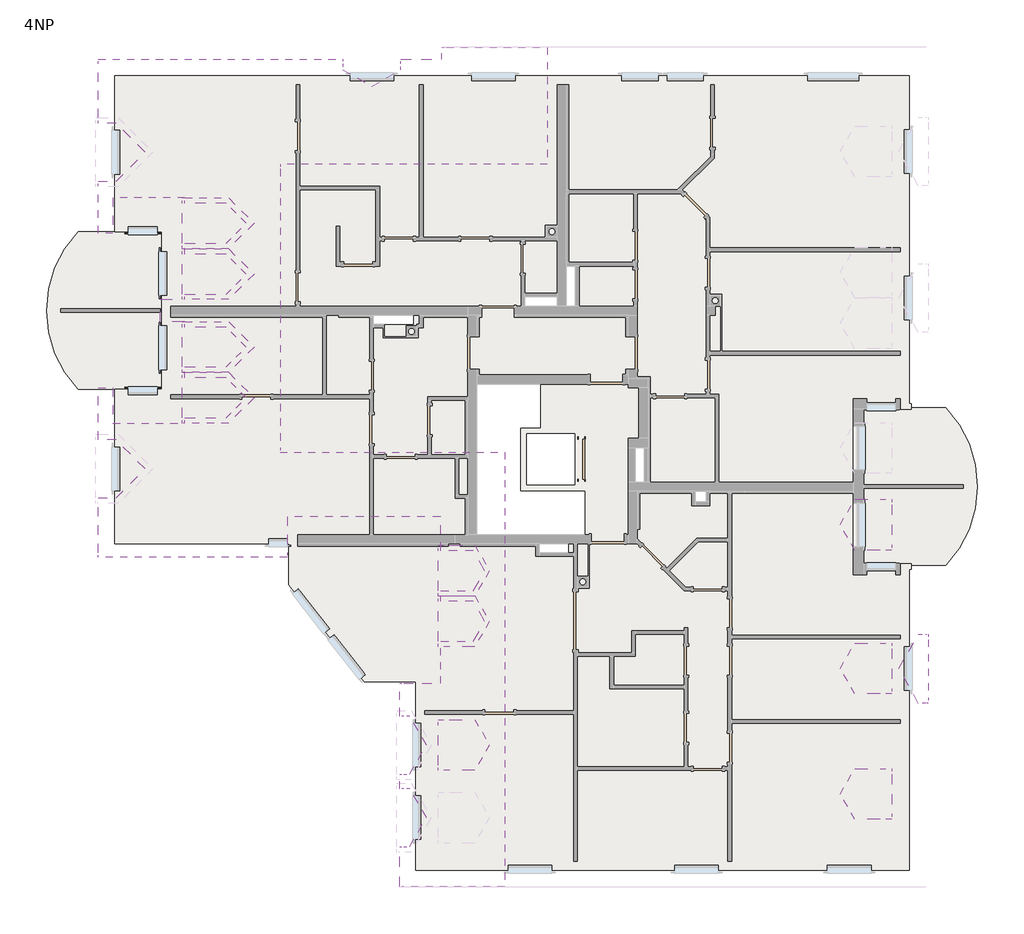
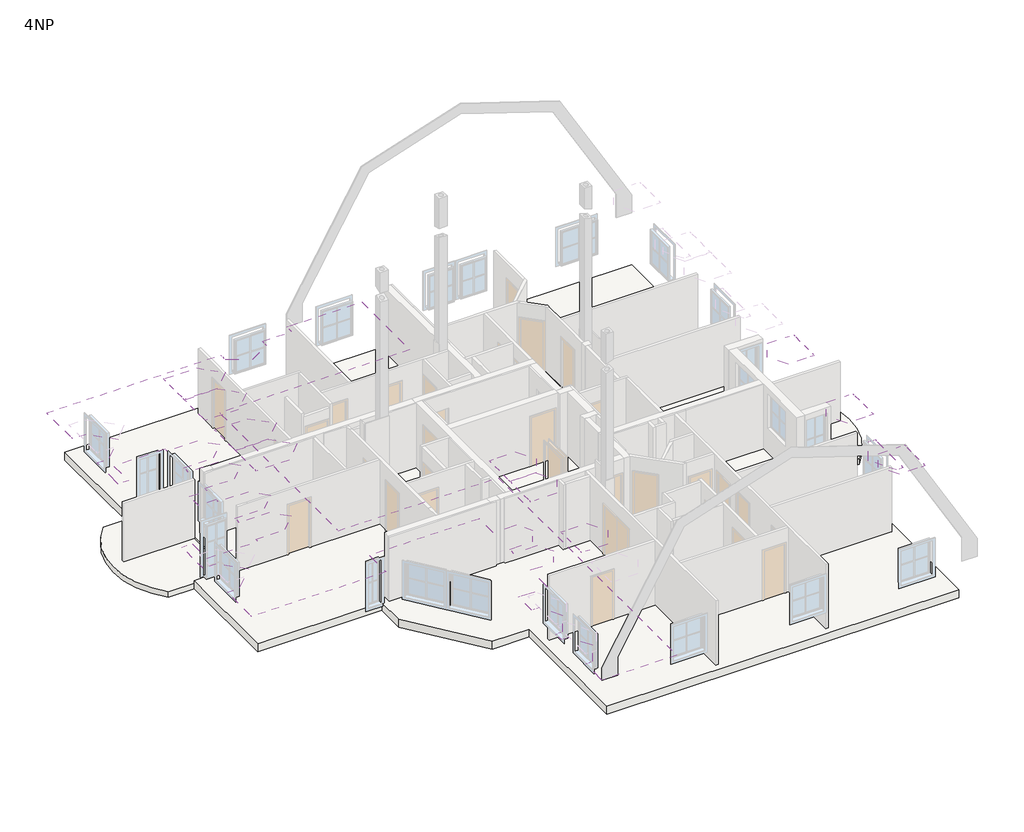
# One storey, part 4 of 5: 12 roofs, 3 slabs.
"""IFC4 building model written with IfcOpenShell, lengths in millimetres."""

from ifc_helpers import new_model, si_unit, frame, origin, place, context, project, spatial, circle_curve, faceted_brep, element, save
from ifc_brep_helpers import plane_surface, cylinder_surface, advanced_brep

model = new_model("IFC4")

# Units and contexts
model_context = context("Model", 3, world=origin())
ifc_project = project(units=[si_unit("LENGTHUNIT", "METRE", prefix="MILLI")], contexts=[model_context])

# Site, building, storey
site = spatial("IfcSite", under=ifc_project)
building = spatial("IfcBuilding", under=site)
storey = spatial("IfcBuildingStorey", under=building, Name="4NP", Elevation=8850.0)

# Roofs
placement = place(None, origin())
element("IfcRoof", 1, ObjectType="Mansarde", at=placement, inside=storey, context=model_context, shape_type="Brep", body=[
    faceted_brep([(8757.3155772, 9175.6927772, 12091.5566597), (8557.3155772, 9175.6927772, 12437.9668213), (8557.3155772, 9275.6927772, 12437.9668213), (7431.5396266, 9275.6927772, 14387.8679656), (7113.9969785, 8725.6927772, 14937.8679656), (7431.5396266, 8175.6927772, 14387.8679656), (8557.3155772, 8175.6927772, 12437.9668213), (8557.3155772, 8275.6927772, 12437.9668213), (8757.3155772, 8275.6927772, 12091.5566597), (8757.3155772, 8667.2494369, 12091.5566597), (9185.4535143, 7925.6927772, 11350.0), (9762.8037835, 7925.6927772, 10350.0), (9762.8037835, 5488.4530256, 10350.0), (9185.4535143, 5488.4530256, 11350.0), (8723.5732989, 4688.4530256, 12150.0), (9185.4535143, 3888.4530256, 11350.0), (9762.8037835, 3888.4530256, 10350.0), (9762.8037835, 1614.1761086, 10350.0), (9132.8037835, 1614.1761086, 11441.1920088), (9132.8037835, -2628.9180005, 11441.1920088), (9762.8037835, -2628.9180005, 10350.0), (9762.8037835, -4724.0530367, 10350.0), (9185.4535143, -4724.0530367, 11350.0), (8757.3155772, -5465.6096965, 12091.5566597), (8757.3155772, -4974.0530367, 12091.5566597), (7431.5396266, -4974.0530367, 14387.8679656), (7113.9969785, -5524.0530367, 14937.8679656), (7431.5396266, -6074.0530367, 14387.8679656), (8757.3155772, -6074.0530367, 12091.5566597), (8757.3155772, -5582.496377, 12091.5566597), (9185.4535143, -6324.0530367, 11350.0), (9762.8037835, -6324.0530367, 10350.0), (9762.8037835, -11532.3709459, 10350.0), (6985.5802922, -11532.3709459, 15160.2921908), (6985.5802922, 11592.3927558, 15160.2921908), (9762.8037835, 11592.3927558, 10350.0), (9762.8037835, 9525.6927772, 10350.0), (9185.4535143, 9525.6927772, 11350.0), (8757.3155772, 8784.1361174, 12091.5566597), (7431.5396266, -9532.3709459, 14387.8679656), (8757.3155772, -9532.3709459, 12091.5566597), (8757.3155772, -8432.3709459, 12091.5566597), (7431.5396266, -8432.3709459, 14387.8679656), (7113.9969785, -8982.3709459, 14937.8679656), (7431.5396266, -2113.5367865, 14387.8679656), (8757.3155772, -2113.5367865, 12091.5566597), (8757.3155772, -1013.5367865, 12091.5566597), (7431.5396266, -1013.5367865, 14387.8679656), (7113.9969785, -1563.5367865, 14937.8679656), (7431.5396266, 5.9947187, 14387.8679656), (8757.3155772, 5.9947187, 12091.5566597), (8757.3155772, 1105.9947187, 12091.5566597), (7431.5396266, 1105.9947187, 14387.8679656), (7113.9969785, 555.9947187, 14937.8679656), (7431.5396266, 3438.4530256, 14387.8679656), (8757.3155772, 3438.4530256, 12091.5566597), (8757.3155772, 4538.4530256, 12091.5566597), (7431.5396266, 4538.4530256, 14387.8679656), (7113.9969785, 3988.4530256, 14937.8679656), (7431.5396266, 4838.4530256, 14387.8679656), (8757.3155772, 4838.4530256, 12091.5566597), (8757.3155772, 5938.4530256, 12091.5566597), (7431.5396266, 5938.4530256, 14387.8679656), (7113.9969785, 5388.4530256, 14937.8679656), (9762.8037835, 11592.3927558, 11070.0), (6985.5802922, 11592.3927558, 15880.2921908), (6985.5802922, -11532.3709459, 15880.2921908), (9762.8037835, -11532.3709459, 11070.0), (9762.8037835, -6324.0530367, 11070.0), (9601.1457081, -6324.0530367, 11350.0), (9139.2654927, -5524.0530367, 12150.0), (9601.1457081, -4724.0530367, 11350.0), (9762.8037835, -4724.0530367, 11070.0), (9762.8037835, -2628.9180005, 11070.0), (9132.8037835, -2628.9180005, 12161.1920088), (9132.8037835, 1614.1761086, 12161.1920088), (9762.8037835, 1614.1761086, 11070.0), (9762.8037835, 3888.4530256, 11070.0), (9601.1457081, 3888.4530256, 11350.0), (9139.2654927, 4688.4530256, 12150.0), (9601.1457081, 5488.4530256, 11350.0), (9762.8037835, 5488.4530256, 11070.0), (9762.8037835, 7925.6927772, 11070.0), (9601.1457081, 7925.6927772, 11350.0), (9139.2654927, 8725.6927772, 12150.0), (9601.1457081, 9525.6927772, 11350.0), (9762.8037835, 9525.6927772, 11070.0), (8557.3155772, 9175.6927772, 13157.9668213), (8757.3155772, 9175.6927772, 12811.5566597), (8757.3155772, 8275.6927772, 12811.5566597), (8557.3155772, 8275.6927772, 13157.9668213), (8557.3155772, 8175.6927772, 13157.9668213), (7847.2318204, 8175.6927772, 14387.8679656), (7529.6891723, 8725.6927772, 14937.8679656), (7847.2318204, 9275.6927772, 14387.8679656), (8557.3155772, 9275.6927772, 13157.9668213), (8757.3155772, -9532.3709459, 12811.5566597), (7847.2318204, -9532.3709459, 14387.8679656), (7529.6891723, -8982.3709459, 14937.8679656), (7847.2318204, -8432.3709459, 14387.8679656), (8757.3155772, -8432.3709459, 12811.5566597), (8757.3155772, -6074.0530367, 12811.5566597), (7847.2318204, -6074.0530367, 14387.8679656), (7529.6891723, -5524.0530367, 14937.8679656), (7847.2318204, -4974.0530367, 14387.8679656), (8757.3155772, -4974.0530367, 12811.5566597), (8757.3155772, -2113.5367865, 12811.5566597), (7847.2318204, -2113.5367865, 14387.8679656), (7529.6891723, -1563.5367865, 14937.8679656), (7847.2318204, -1013.5367865, 14387.8679656), (8757.3155772, -1013.5367865, 12811.5566597), (8757.3155772, 5.9947187, 12811.5566597), (7847.2318204, 5.9947187, 14387.8679656), (7529.6891723, 555.9947187, 14937.8679656), (7847.2318204, 1105.9947187, 14387.8679656), (8757.3155772, 1105.9947187, 12811.5566597), (8757.3155772, 3438.4530256, 12811.5566597), (7847.2318204, 3438.4530256, 14387.8679656), (7529.6891723, 3988.4530256, 14937.8679656), (7847.2318204, 4538.4530256, 14387.8679656), (8757.3155772, 4538.4530256, 12811.5566597), (8757.3155772, 4838.4530256, 12811.5566597), (7847.2318204, 4838.4530256, 14387.8679656), (7529.6891723, 5388.4530256, 14937.8679656), (7847.2318204, 5938.4530256, 14387.8679656), (8757.3155772, 5938.4530256, 12811.5566597), (6985.5802922, -11532.3709459, 15874.4631818), (6985.5802922, -11532.3709459, 15495.936781), (6985.5802922, 11592.3927558, 15495.936781), (6985.5802922, 11592.3927558, 15874.4631818), (8757.3155772, -5524.0530367, 12150.0), (8757.3155772, 8725.6927772, 12150.0)], [[[0, 1, 2, 3, 4, 5, 6, 7, 8, 9, 10, 11, 12, 13, 14, 15, 16, 17, 18, 19, 20, 21, 22, 23, 24, 25, 26, 27, 28, 29, 30, 31, 32, 33, 34, 35, 36, 37, 38], [39, 40, 41, 42, 43], [44, 45, 46, 47, 48], [49, 50, 51, 52, 53], [54, 55, 56, 57, 58], [59, 60, 61, 62, 63]], [[64, 65, 66, 67, 68, 69, 70, 71, 72, 73, 74, 75, 76, 77, 78, 79, 80, 81, 82, 83, 84, 85, 86], [87, 88, 89, 90, 91, 92, 93, 94, 95], [96, 97, 98, 99, 100], [101, 102, 103, 104, 105], [106, 107, 108, 109, 110], [111, 112, 113, 114, 115], [116, 117, 118, 119, 120], [121, 122, 123, 124, 125]], [[67, 32, 31, 68]], [[35, 64, 86, 36]], [[20, 73, 72, 21]], [[76, 17, 16, 77]], [[81, 12, 11, 82]], [[32, 67, 66, 126, 127, 33]], [[64, 35, 34, 128, 129, 65]], [[40, 96, 100, 41]], [[28, 101, 105, 24, 23, 130, 29]], [[50, 111, 115, 51]], [[45, 106, 110, 46]], [[60, 121, 125, 61]], [[55, 116, 120, 56]], [[0, 88, 87, 1]], [[89, 8, 7, 90]], [[88, 0, 38, 131, 9, 8, 89]], [[34, 33, 127, 126, 66, 65, 129, 128]], [[18, 75, 74, 19]], [[19, 74, 73, 20]], [[75, 18, 17, 76]], [[96, 40, 39, 97]], [[97, 39, 43, 98]], [[98, 43, 42, 99]], [[41, 100, 99, 42]], [[101, 28, 27, 102]], [[102, 27, 26, 103]], [[103, 26, 25, 104]], [[24, 105, 104, 25]], [[106, 45, 44, 107]], [[107, 44, 48, 108]], [[108, 48, 47, 109]], [[46, 110, 109, 47]], [[111, 50, 49, 112]], [[112, 49, 53, 113]], [[113, 53, 52, 114]], [[51, 115, 114, 52]], [[116, 55, 54, 117]], [[117, 54, 58, 118]], [[118, 58, 57, 119]], [[56, 120, 119, 57]], [[121, 60, 59, 122]], [[122, 59, 63, 123]], [[123, 63, 62, 124]], [[61, 125, 124, 62]], [[6, 91, 90, 7]], [[95, 2, 1, 87]], [[91, 6, 5, 92]], [[92, 5, 4, 93]], [[93, 4, 3, 94]], [[2, 95, 94, 3]], [[30, 69, 68, 31]], [[69, 30, 29, 130, 70]], [[22, 71, 70, 130, 23]], [[71, 22, 21, 72]], [[15, 78, 77, 16]], [[78, 15, 14, 79]], [[79, 14, 13, 80]], [[80, 13, 12, 81]], [[10, 83, 82, 11]], [[83, 10, 9, 131, 84]], [[37, 85, 84, 131, 38]], [[85, 37, 36, 86]]]),
    faceted_brep([(-3445.4427918, 11145.8756294, 10350.0), (-3445.4427918, 11592.3927558, 10350.0), (-671.5846805, 11592.3927558, 15154.4631818), (-671.5846805, 8372.0175181, 15154.4631818), (-8021.8499172, 8372.0175181, 15154.4631818), (-8021.8499172, 8250.2640934, 15365.3462993), (-13037.1962165, 11145.8756294, 10350.0), (-6300.2469102, 11145.8756294, 10350.0), (-6300.2469102, 10568.5253602, 11350.0), (-5500.2469102, 10106.6451449, 12150.0), (-4700.2469102, 10568.5253602, 11350.0), (-4700.2469102, 11145.8756294, 10350.0), (-12637.1962165, 6467.6290541, 10750.0), (-13037.1962165, 6467.6290541, 10350.0), (-13037.1962165, 7905.3927399, 10350.0), (-12037.1962165, 7905.3927399, 11350.0), (-11237.1962165, 8705.3927399, 12150.0), (-12037.1962165, 9505.3927399, 11350.0), (-13037.1962165, 9505.3927399, 10350.0), (-8021.8499172, 558.7926023, 15365.3462993), (-13037.1962165, -2336.8189337, 10350.0), (-13037.1962165, -820.1346317, 10350.0), (-12037.1962165, -820.1346317, 11350.0), (-11237.1962165, -20.1346317, 12150.0), (-12037.1962165, 779.8653683, 11350.0), (-13037.1962165, 779.8653683, 10350.0), (-13037.1962165, 2217.6290541, 10350.0), (-12637.1962165, 2217.6290541, 10750.0), (-12637.1962165, 1237.6290541, 10750.0), (-10656.4352243, 1237.6290541, 12730.7609923), (-10656.4352243, 1387.6290541, 12730.7609923), (-8999.3282509, 1387.6290541, 14387.8679656), (-8449.3282509, 1937.6290541, 14937.8679656), (-8999.3282509, 2487.6290541, 14387.8679656), (-10656.4352243, 2487.6290541, 12730.7609923), (-10656.4352243, 2787.6290541, 12730.7609923), (-8999.3282509, 2787.6290541, 14387.8679656), (-8449.3282509, 3337.6290541, 14937.8679656), (-8999.3282509, 3887.6290541, 14387.8679656), (-10656.4352243, 3887.6290541, 12730.7609923), (-10656.4352243, 4037.6290541, 12730.7609923), (-11337.1962165, 4037.6290541, 12050.0), (-11337.1962165, 4647.6290541, 12050.0), (-10656.4352243, 4647.6290541, 12730.7609923), (-10656.4352243, 4797.6290541, 12730.7609923), (-8999.3282509, 4797.6290541, 14387.8679656), (-8449.3282509, 5347.6290541, 14937.8679656), (-8999.3282509, 5897.6290541, 14387.8679656), (-10656.4352243, 5897.6290541, 12730.7609923), (-10656.4352243, 6197.6290541, 12730.7609923), (-8999.3282509, 6197.6290541, 14387.8679656), (-8449.3282509, 6747.6290541, 14937.8679656), (-8999.3282509, 7297.6290541, 14387.8679656), (-10656.4352243, 7297.6290541, 12730.7609923), (-10656.4352243, 7447.6290541, 12730.7609923), (-12637.1962165, 7447.6290541, 10750.0), (-7837.1962165, -2336.8189337, 10350.0), (-8021.8499172, 437.0391776, 15154.4631818), (-1841.5846805, 437.0391776, 15154.4631818), (-3616.7447032, -1338.1208451, 12079.795831), (-7837.1962165, -1338.1208451, 12079.795831), (-4615.4427918, -5932.3709459, 10350.0), (-3598.9496412, -5932.3709459, 12110.6177824), (-3598.9496412, -4772.3709459, 12110.6177824), (-2284.1786349, -4772.3709459, 14387.8679656), (-1966.6359869, -4222.3709459, 14937.8679656), (-2284.1786349, -3672.3709459, 14387.8679656), (-3598.9496412, -3672.3709459, 12110.6177824), (-3598.9496412, -3377.3709459, 12110.6177824), (-2284.1786349, -3377.3709459, 14387.8679656), (-1966.6359869, -2827.3709459, 14937.8679656), (-2284.1786349, -2277.3709459, 14387.8679656), (-3598.9496412, -2277.3709459, 12110.6177824), (-3598.9496412, -1338.1208451, 12110.6177824), (-1841.5846805, -11532.3709459, 15154.4631818), (-4615.4427918, -11532.3709459, 10350.0), (-4615.4427918, -10432.3709452, 10350.0), (-4038.0925227, -10432.3709452, 11350.0), (-3598.9496412, -9671.7531628, 12110.6177824), (-3598.9496412, -10182.3709452, 12110.6177824), (-2284.1786349, -10182.3709452, 14387.8679656), (-1966.6359869, -9632.3709452, 14937.8679656), (-2284.1786349, -9082.3709452, 14387.8679656), (-3598.9496412, -9082.3709452, 12110.6177824), (-3598.9496412, -9592.9887276, 12110.6177824), (-4038.0925227, -8832.3709452, 11350.0), (-4615.4427918, -8832.3709452, 10350.0), (-4615.4427918, -8432.3709452, 10350.0), (-4038.0925227, -8432.3709452, 11350.0), (-3598.9496412, -7671.7531628, 12110.6177824), (-3598.9496412, -8182.3709452, 12110.6177824), (-2284.1786349, -8182.3709452, 14387.8679656), (-1966.6359869, -7632.3709452, 14937.8679656), (-2284.1786349, -7082.3709452, 14387.8679656), (-3598.9496412, -7082.3709452, 12110.6177824), (-3598.9496412, -7592.9887276, 12110.6177824), (-4038.0925227, -6832.3709452, 11350.0), (-4615.4427918, -6832.3709452, 10350.0), (-3567.1962165, 11592.3927558, 10859.1168825), (-3567.1962165, 11267.6290541, 10859.1168825), (-671.5846805, 8372.0175181, 15874.4631818), (-671.5846805, 11592.3927558, 15874.4631818), (-13037.1962165, 11267.6290541, 10859.1168825), (-8021.8499172, 8372.0175181, 15874.4631818), (-4700.2469102, 11267.6290541, 10859.1168825), (-4700.2469102, 10984.217554, 11350.0), (-5500.2469102, 10522.3373387, 12150.0), (-6300.2469102, 10984.217554, 11350.0), (-6300.2469102, 11267.6290541, 10859.1168825), (-13037.1962165, 6467.6290541, 10859.1168825), (-12637.1962165, 6467.6290541, 11259.1168825), (-12637.1962165, 7447.6290541, 11259.1168825), (-10656.4352243, 7447.6290541, 13239.8778747), (-10656.4352243, 7297.6290541, 13239.8778747), (-9508.4451333, 7297.6290541, 14387.8679656), (-8958.4451333, 6747.6290541, 14937.8679656), (-9508.4451333, 6197.6290541, 14387.8679656), (-10656.4352243, 6197.6290541, 13239.8778747), (-10656.4352243, 5897.6290541, 13239.8778747), (-9508.4451333, 5897.6290541, 14387.8679656), (-8958.4451333, 5347.6290541, 14937.8679656), (-9508.4451333, 4797.6290541, 14387.8679656), (-10656.4352243, 4797.6290541, 13239.8778747), (-10656.4352243, 4647.6290541, 13239.8778747), (-11337.1962165, 4647.6290541, 12559.1168825), (-11337.1962165, 4037.6290541, 12559.1168825), (-10656.4352243, 4037.6290541, 13239.8778747), (-10656.4352243, 3887.6290541, 13239.8778747), (-9508.4451333, 3887.6290541, 14387.8679656), (-8958.4451333, 3337.6290541, 14937.8679656), (-9508.4451333, 2787.6290541, 14387.8679656), (-10656.4352243, 2787.6290541, 13239.8778747), (-10656.4352243, 2487.6290541, 13239.8778747), (-9508.4451333, 2487.6290541, 14387.8679656), (-8958.4451333, 1937.6290541, 14937.8679656), (-9508.4451333, 1387.6290541, 14387.8679656), (-10656.4352243, 1387.6290541, 13239.8778747), (-10656.4352243, 1237.6290541, 13239.8778747), (-12637.1962165, 1237.6290541, 11259.1168825), (-12637.1962165, 2217.6290541, 11259.1168825), (-13037.1962165, 2217.6290541, 10859.1168825), (-13037.1962165, 779.8653683, 10859.1168825), (-12546.313099, 779.8653683, 11350.0), (-11746.313099, -20.1346317, 12150.0), (-12546.313099, -820.1346317, 11350.0), (-13037.1962165, -820.1346317, 10859.1168825), (-13037.1962165, -2458.5723584, 10859.1168825), (-8021.8499172, 437.0391776, 15874.4631818), (-13037.1962165, 9655.3927399, 10859.1168825), (-13037.1962165, 9505.3927399, 10859.1168825), (-12546.313099, 9505.3927399, 11350.0), (-11746.313099, 8705.3927399, 12150.0), (-12546.313099, 7905.3927399, 11350.0), (-13037.1962165, 7905.3927399, 10859.1168825), (-13037.1962165, 7755.3927399, 10859.1168825), (-7837.1962165, -2458.5723584, 10859.1168825), (-7837.1962165, -1338.1208451, 12799.795831), (-3616.7447032, -1338.1208451, 12799.795831), (-1841.5846805, 437.0391776, 15874.4631818), (-3598.9496412, -5932.3709459, 12830.6177824), (-4737.1962165, -5932.3709459, 10859.1168825), (-4737.1962165, -6832.3709452, 10859.1168825), (-4453.7847165, -6832.3709452, 11350.0), (-3991.9045011, -7632.3709452, 12150.0), (-4453.7847165, -8432.3709452, 11350.0), (-4737.1962165, -8432.3709452, 10859.1168825), (-4737.1962165, -8832.3709452, 10859.1168825), (-4453.7847165, -8832.3709452, 11350.0), (-3991.9045011, -9632.3709452, 12150.0), (-4453.7847165, -10432.3709452, 11350.0), (-4737.1962165, -10432.3709452, 10859.1168825), (-4737.1962165, -11532.3709459, 10859.1168825), (-1841.5846805, -11532.3709459, 15874.4631818), (-3598.9496412, -1338.1208451, 12830.6177824), (-3598.9496412, -2277.3709459, 12830.6177824), (-2699.8708287, -2277.3709459, 14387.8679656), (-2382.3281807, -2827.3709459, 14937.8679656), (-2699.8708287, -3377.3709459, 14387.8679656), (-3598.9496412, -3377.3709459, 12830.6177824), (-3598.9496412, -3672.3709459, 12830.6177824), (-2699.8708287, -3672.3709459, 14387.8679656), (-2382.3281807, -4222.3709459, 14937.8679656), (-2699.8708287, -4772.3709459, 14387.8679656), (-3598.9496412, -4772.3709459, 12830.6177824), (-3598.9496412, -8182.3709452, 12830.6177824), (-3598.9496412, -7082.3709452, 12830.6177824), (-2699.8708287, -7082.3709452, 14387.8679656), (-2382.3281807, -7632.3709452, 14937.8679656), (-2699.8708287, -8182.3709452, 14387.8679656), (-3598.9496412, -10182.3709452, 12830.6177824), (-3598.9496412, -9082.3709452, 12830.6177824), (-2699.8708287, -9082.3709452, 14387.8679656), (-2382.3281807, -9632.3709452, 14937.8679656), (-2699.8708287, -10182.3709452, 14387.8679656), (-3567.1962165, 11592.3927558, 10350.0), (-3567.1962165, 11267.6290541, 10350.0), (-4700.2469102, 11267.6290541, 10350.0), (-13037.1962165, 11267.6290541, 10350.0), (-6300.2469102, 11267.6290541, 10350.0), (-13037.1962165, -2458.5723584, 10350.0), (-7837.1962165, -2458.5723584, 10350.0), (-4737.1962165, -11532.3709459, 10350.0), (-4737.1962165, -10432.3709452, 10350.0), (-4737.1962165, -5932.3709459, 10350.0), (-4737.1962165, -6832.3709452, 10350.0), (-4737.1962165, -8432.3709452, 10350.0), (-4737.1962165, -8832.3709452, 10350.0), (-1841.5846805, -11532.3709459, 15495.936781), (-671.5846805, 11592.3927558, 15495.936781), (-3598.9496412, -7632.3709452, 12150.0), (-3598.9496412, -9632.3709452, 12150.0)], [[[0, 1, 2, 3]], [[0, 3, 4, 5, 6, 7, 8, 9, 10, 11]], [[12, 13, 14, 15, 16, 17, 18, 6, 5, 19, 20, 21, 22, 23, 24, 25, 26, 27, 28, 29, 30, 31, 32, 33, 34, 35, 36, 37, 38, 39, 40, 41, 42, 43, 44, 45, 46, 47, 48, 49, 50, 51, 52, 53, 54, 55]], [[56, 20, 19, 57, 58, 59, 60]], [[61, 62, 63, 64, 65, 66, 67, 68, 69, 70, 71, 72, 73, 59, 58, 74, 75, 76, 77, 78, 79, 80, 81, 82, 83, 84, 85, 86, 87, 88, 89, 90, 91, 92, 93, 94, 95, 96, 97]], [[98, 99, 100, 101]], [[102, 103, 100, 99, 104, 105, 106, 107, 108]], [[109, 110, 111, 112, 113, 114, 115, 116, 117, 118, 119, 120, 121, 122, 123, 124, 125, 126, 127, 128, 129, 130, 131, 132, 133, 134, 135, 136, 137, 138, 139, 140, 141, 142, 143, 144, 145, 146, 147, 103, 102, 148, 149, 150, 151, 152, 153, 154]], [[146, 155, 156, 157, 158, 147]], [[159, 160, 161, 162, 163, 164, 165, 166, 167, 168, 169, 170, 171, 172, 158, 157, 173, 174, 175, 176, 177, 178, 179, 180, 181, 182, 183], [184, 185, 186, 187, 188], [189, 190, 191, 192, 193]], [[99, 98, 194, 195]], [[99, 195, 196, 104]], [[197, 102, 108, 198]], [[102, 197, 6, 18, 149, 148]], [[13, 109, 154, 153, 14]], [[140, 26, 25, 141]], [[199, 146, 145, 21, 20]], [[146, 199, 200, 155]], [[201, 171, 170, 202]], [[160, 203, 204, 161]], [[165, 205, 206, 166]], [[1, 0, 11, 196, 195, 194]], [[6, 197, 198, 7]], [[75, 201, 202, 76]], [[199, 20, 56, 200]], [[203, 61, 97, 204]], [[205, 87, 86, 206]], [[171, 201, 75, 74, 207, 172]], [[194, 98, 101, 208, 2, 1]], [[109, 13, 12, 110]], [[124, 42, 41, 125]], [[26, 140, 139, 27]], [[43, 123, 122, 44]], [[112, 54, 53, 113]], [[48, 118, 117, 49]], [[54, 112, 111, 55]], [[55, 111, 110, 12]], [[123, 43, 42, 124]], [[40, 126, 125, 41]], [[138, 28, 27, 139]], [[28, 138, 137, 29]], [[126, 40, 39, 127]], [[29, 137, 136, 30]], [[131, 35, 34, 132]], [[60, 156, 155, 200, 56]], [[159, 62, 61, 203, 160]], [[62, 159, 183, 63]], [[173, 73, 72, 174]], [[67, 179, 178, 68]], [[156, 60, 59, 73, 173, 157]], [[185, 94, 93, 186]], [[94, 185, 184, 90, 89, 209, 95]], [[90, 184, 188, 91]], [[190, 83, 82, 191]], [[83, 190, 189, 79, 78, 210, 84]], [[79, 189, 193, 80]], [[3, 100, 103, 4]], [[4, 103, 147, 57, 19, 5]], [[158, 58, 57, 147]], [[58, 158, 172, 207, 74]], [[100, 3, 2, 208, 101]], [[17, 150, 149, 18]], [[150, 17, 16, 151]], [[151, 16, 15, 152]], [[152, 15, 14, 153]], [[24, 142, 141, 25]], [[142, 24, 23, 143]], [[143, 23, 22, 144]], [[144, 22, 21, 145]], [[96, 162, 161, 204, 97]], [[162, 96, 95, 209, 163]], [[88, 164, 163, 209, 89]], [[164, 88, 87, 205, 165]], [[85, 167, 166, 206, 86]], [[167, 85, 84, 210, 168]], [[77, 169, 168, 210, 78]], [[169, 77, 76, 202, 170]], [[47, 119, 118, 48]], [[119, 47, 46, 120]], [[120, 46, 45, 121]], [[121, 45, 44, 122]], [[52, 114, 113, 53]], [[114, 52, 51, 115]], [[115, 51, 50, 116]], [[116, 50, 49, 117]], [[38, 128, 127, 39]], [[128, 38, 37, 129]], [[129, 37, 36, 130]], [[130, 36, 35, 131]], [[33, 133, 132, 34]], [[133, 33, 32, 134]], [[134, 32, 31, 135]], [[135, 31, 30, 136]], [[66, 180, 179, 67]], [[180, 66, 65, 181]], [[181, 65, 64, 182]], [[182, 64, 63, 183]], [[71, 175, 174, 72]], [[175, 71, 70, 176]], [[176, 70, 69, 177]], [[177, 69, 68, 178]], [[186, 93, 92, 187]], [[187, 92, 91, 188]], [[191, 82, 81, 192]], [[192, 81, 80, 193]], [[10, 105, 104, 196, 11]], [[105, 10, 9, 106]], [[106, 9, 8, 107]], [[107, 8, 7, 198, 108]]]),
])
element("IfcRoof", 2, ObjectType="Dormer", at=placement, inside=storey, context=model_context, shape_type="Brep", body=[
    faceted_brep([(-10726.4352243, 4647.6290541, 13245.9738747), (-10726.4352243, 4647.6290541, 14450.0), (-10726.4352243, 5347.6290541, 15150.0), (-10726.4352243, 6047.6290541, 14450.0), (-10726.4352243, 6047.6290541, 13239.8778747), (-10726.4352243, 5897.6290541, 13239.8778747), (-10726.4352243, 5897.6290541, 14387.8679656), (-10726.4352243, 5347.6290541, 14937.8679656), (-10726.4352243, 4797.6290541, 14387.8679656), (-10726.4352243, 4797.6290541, 13245.9738747), (-10650.3392243, 4647.6290541, 13245.9738747), (-9446.313099, 4647.6290541, 14450.0), (-8746.313099, 5347.6290541, 15150.0), (-9446.313099, 6047.6290541, 14450.0), (-10656.4352243, 6047.6290541, 13239.8778747), (-10656.4352243, 5897.6290541, 13239.8778747), (-9508.4451333, 5897.6290541, 14387.8679656), (-8958.4451333, 5347.6290541, 14937.8679656), (-9508.4451333, 4797.6290541, 14387.8679656), (-10650.3392243, 4797.6290541, 13245.9738747)], [[[0, 1, 2, 3, 4, 5, 6, 7, 8, 9]], [[1, 0, 10, 11]], [[2, 1, 11, 12]], [[3, 2, 12, 13]], [[4, 3, 13, 14]], [[5, 4, 14, 15]], [[6, 5, 15, 16]], [[7, 6, 16, 17]], [[8, 7, 17, 18]], [[9, 8, 18, 19]], [[0, 9, 19, 10]], [[10, 19, 18, 17, 16, 15, 14, 13, 12, 11]]]),
])
element("IfcRoof", 3, ObjectType="Dormer", at=placement, inside=storey, context=model_context, shape_type="Brep", body=[
    faceted_brep([(-10726.4352243, 6047.6290541, 13245.9738747), (-10726.4352243, 6047.6290541, 14450.0), (-10726.4352243, 6747.6290541, 15150.0), (-10726.4352243, 7447.6290541, 14450.0), (-10726.4352243, 7447.6290541, 13239.8778747), (-10726.4352243, 7297.6290541, 13239.8778747), (-10726.4352243, 7297.6290541, 14387.8679656), (-10726.4352243, 6747.6290541, 14937.8679656), (-10726.4352243, 6197.6290541, 14387.8679656), (-10726.4352243, 6197.6290541, 13245.9738747), (-10650.3392243, 6047.6290541, 13245.9738747), (-9446.313099, 6047.6290541, 14450.0), (-8746.313099, 6747.6290541, 15150.0), (-9446.313099, 7447.6290541, 14450.0), (-10656.4352243, 7447.6290541, 13239.8778747), (-10656.4352243, 7297.6290541, 13239.8778747), (-9508.4451333, 7297.6290541, 14387.8679656), (-8958.4451333, 6747.6290541, 14937.8679656), (-9508.4451333, 6197.6290541, 14387.8679656), (-10650.3392243, 6197.6290541, 13245.9738747)], [[[0, 1, 2, 3, 4, 5, 6, 7, 8, 9]], [[1, 0, 10, 11]], [[2, 1, 11, 12]], [[3, 2, 12, 13]], [[4, 3, 13, 14]], [[5, 4, 14, 15]], [[6, 5, 15, 16]], [[7, 6, 16, 17]], [[8, 7, 17, 18]], [[9, 8, 18, 19]], [[0, 9, 19, 10]], [[10, 19, 18, 17, 16, 15, 14, 13, 12, 11]]]),
])
element("IfcRoof", 4, ObjectType="Dormer", at=placement, inside=storey, context=model_context, shape_type="Brep", body=[
    faceted_brep([(-10726.4352243, 4037.6290541, 13245.9738747), (-10726.4352243, 3887.6290541, 13245.9738747), (-10726.4352243, 3887.6290541, 14387.8679656), (-10726.4352243, 3337.6290541, 14937.8679656), (-10726.4352243, 2787.6290541, 14387.8679656), (-10726.4352243, 2787.6290541, 13239.8778747), (-10726.4352243, 2637.6290541, 13239.8778747), (-10726.4352243, 2637.6290541, 14450.0), (-10726.4352243, 3337.6290541, 15150.0), (-10726.4352243, 4037.6290541, 14450.0), (-9446.313099, 4037.6290541, 14450.0), (-10650.3392243, 4037.6290541, 13245.9738747), (-8746.313099, 3337.6290541, 15150.0), (-9446.313099, 2637.6290541, 14450.0), (-10656.4352243, 2637.6290541, 13239.8778747), (-10656.4352243, 2787.6290541, 13239.8778747), (-9508.4451333, 2787.6290541, 14387.8679656), (-8958.4451333, 3337.6290541, 14937.8679656), (-9508.4451333, 3887.6290541, 14387.8679656), (-10650.3392243, 3887.6290541, 13245.9738747)], [[[0, 1, 2, 3, 4, 5, 6, 7, 8, 9]], [[10, 11, 0, 9]], [[12, 10, 9, 8]], [[13, 12, 8, 7]], [[14, 13, 7, 6]], [[15, 14, 6, 5]], [[16, 15, 5, 4]], [[17, 16, 4, 3]], [[18, 17, 3, 2]], [[19, 18, 2, 1]], [[11, 19, 1, 0]], [[11, 10, 12, 13, 14, 15, 16, 17, 18, 19]]]),
])
element("IfcRoof", 5, ObjectType="Dormer", at=placement, inside=storey, context=model_context, shape_type="Brep", body=[
    faceted_brep([(-10726.4352243, 2637.6290541, 13245.9738747), (-10726.4352243, 2487.6290541, 13245.9738747), (-10726.4352243, 2487.6290541, 14387.8679656), (-10726.4352243, 1937.6290541, 14937.8679656), (-10726.4352243, 1387.6290541, 14387.8679656), (-10726.4352243, 1387.6290541, 13239.8778747), (-10726.4352243, 1237.6290541, 13239.8778747), (-10726.4352243, 1237.6290541, 14450.0), (-10726.4352243, 1937.6290541, 15150.0), (-10726.4352243, 2637.6290541, 14450.0), (-9446.313099, 2637.6290541, 14450.0), (-10650.3392243, 2637.6290541, 13245.9738747), (-8746.313099, 1937.6290541, 15150.0), (-9446.313099, 1237.6290541, 14450.0), (-10656.4352243, 1237.6290541, 13239.8778747), (-10656.4352243, 1387.6290541, 13239.8778747), (-9508.4451333, 1387.6290541, 14387.8679656), (-8958.4451333, 1937.6290541, 14937.8679656), (-9508.4451333, 2487.6290541, 14387.8679656), (-10650.3392243, 2487.6290541, 13245.9738747)], [[[0, 1, 2, 3, 4, 5, 6, 7, 8, 9]], [[10, 11, 0, 9]], [[12, 10, 9, 8]], [[13, 12, 8, 7]], [[14, 13, 7, 6]], [[15, 14, 6, 5]], [[16, 15, 5, 4]], [[17, 16, 4, 3]], [[18, 17, 3, 2]], [[19, 18, 2, 1]], [[11, 19, 1, 0]], [[11, 10, 12, 13, 14, 15, 16, 17, 18, 19]]]),
])
element("IfcRoof", 6, ObjectType="Dormer", at=placement, inside=storey, context=model_context, shape_type="Brep", body=[
    faceted_brep([(-3668.9496412, -3527.3709459, 13245.9738747), (-3668.9496412, -3527.3709459, 14450.0), (-3668.9496412, -2827.3709459, 15150.0), (-3668.9496412, -2127.3709459, 14450.0), (-3668.9496412, -2127.3709459, 13239.8778747), (-3668.9496412, -2277.3709459, 13239.8778747), (-3668.9496412, -2277.3709459, 14387.8679656), (-3668.9496412, -2827.3709459, 14937.8679656), (-3668.9496412, -3377.3709459, 14387.8679656), (-3668.9496412, -3377.3709459, 13245.9738747), (-3359.1436895, -3527.3709459, 13245.9738747), (-2663.998882, -3527.3709459, 14450.0), (-2259.8536936, -2827.3709459, 15150.0), (-2663.998882, -2127.3709459, 14450.0), (-3362.6632168, -2127.3709459, 13239.8778747), (-3362.6632168, -2277.3709459, 13239.8778747), (-2699.8708287, -2277.3709459, 14387.8679656), (-2382.3281807, -2827.3709459, 14937.8679656), (-2699.8708287, -3377.3709459, 14387.8679656), (-3359.1436895, -3377.3709459, 13245.9738747)], [[[0, 1, 2, 3, 4, 5, 6, 7, 8, 9]], [[1, 0, 10, 11]], [[2, 1, 11, 12]], [[3, 2, 12, 13]], [[4, 3, 13, 14]], [[5, 4, 14, 15]], [[6, 5, 15, 16]], [[7, 6, 16, 17]], [[8, 7, 17, 18]], [[9, 8, 18, 19]], [[0, 9, 19, 10]], [[10, 19, 18, 17, 16, 15, 14, 13, 12, 11]]]),
])
element("IfcRoof", 7, ObjectType="Dormer", at=placement, inside=storey, context=model_context, shape_type="Brep", body=[
    faceted_brep([(-3668.9496412, -4922.3709459, 13245.9738747), (-3668.9496412, -4922.3709459, 14450.0), (-3668.9496412, -4222.3709459, 15150.0), (-3668.9496412, -3522.3709459, 14450.0), (-3668.9496412, -3522.3709459, 13239.8778747), (-3668.9496412, -3672.3709459, 13239.8778747), (-3668.9496412, -3672.3709459, 14387.8679656), (-3668.9496412, -4222.3709459, 14937.8679656), (-3668.9496412, -4772.3709459, 14387.8679656), (-3668.9496412, -4772.3709459, 13245.9738747), (-3359.1436895, -4922.3709459, 13245.9738747), (-2663.998882, -4922.3709459, 14450.0), (-2259.8536936, -4222.3709459, 15150.0), (-2663.998882, -3522.3709459, 14450.0), (-3362.6632168, -3522.3709459, 13239.8778747), (-3362.6632168, -3672.3709459, 13239.8778747), (-2699.8708287, -3672.3709459, 14387.8679656), (-2382.3281807, -4222.3709459, 14937.8679656), (-2699.8708287, -4772.3709459, 14387.8679656), (-3359.1436895, -4772.3709459, 13245.9738747)], [[[0, 1, 2, 3, 4, 5, 6, 7, 8, 9]], [[1, 0, 10, 11]], [[2, 1, 11, 12]], [[3, 2, 12, 13]], [[4, 3, 13, 14]], [[5, 4, 14, 15]], [[6, 5, 15, 16]], [[7, 6, 16, 17]], [[8, 7, 17, 18]], [[9, 8, 18, 19]], [[0, 9, 19, 10]], [[10, 19, 18, 17, 16, 15, 14, 13, 12, 11]]]),
])
element("IfcRoof", 8, ObjectType="Dormer", at=placement, inside=storey, context=model_context, shape_type="Brep", body=[
    faceted_brep([(-3668.9496412, -8332.3709452, 13245.9738747), (-3668.9496412, -8332.3709452, 14450.0), (-3668.9496412, -7632.3709452, 15150.0), (-3668.9496412, -6932.3709452, 14450.0), (-3668.9496412, -6932.3709452, 13239.8778747), (-3668.9496412, -7082.3709452, 13239.8778747), (-3668.9496412, -7082.3709452, 14387.8679656), (-3668.9496412, -7632.3709452, 14937.8679656), (-3668.9496412, -8182.3709452, 14387.8679656), (-3668.9496412, -8182.3709452, 13245.9738747), (-3359.1436895, -8332.3709452, 13245.9738747), (-2663.998882, -8332.3709452, 14450.0), (-2259.8536936, -7632.3709452, 15150.0), (-2663.998882, -6932.3709452, 14450.0), (-3362.6632168, -6932.3709452, 13239.8778747), (-3362.6632168, -7082.3709452, 13239.8778747), (-2699.8708287, -7082.3709452, 14387.8679656), (-2382.3281807, -7632.3709452, 14937.8679656), (-2699.8708287, -8182.3709452, 14387.8679656), (-3359.1436895, -8182.3709452, 13245.9738747)], [[[0, 1, 2, 3, 4, 5, 6, 7, 8, 9]], [[1, 0, 10, 11]], [[2, 1, 11, 12]], [[3, 2, 12, 13]], [[4, 3, 13, 14]], [[5, 4, 14, 15]], [[6, 5, 15, 16]], [[7, 6, 16, 17]], [[8, 7, 17, 18]], [[9, 8, 18, 19]], [[0, 9, 19, 10]], [[10, 19, 18, 17, 16, 15, 14, 13, 12, 11]]]),
])
element("IfcRoof", 9, ObjectType="Dormer", at=placement, inside=storey, context=model_context, shape_type="Brep", body=[
    faceted_brep([(8827.3155772, -9682.3709459, 13245.9738747), (8827.3155772, -9532.3709459, 13245.9738747), (8827.3155772, -9532.3709459, 14387.8679656), (8827.3155772, -8982.3709459, 14937.8679656), (8827.3155772, -8432.3709459, 14387.8679656), (8827.3155772, -8432.3709459, 13239.8778747), (8827.3155772, -8282.3709459, 13239.8778747), (8827.3155772, -8282.3709459, 14450.0), (8827.3155772, -8982.3709459, 15150.0), (8827.3155772, -9682.3709459, 14450.0), (7811.3598736, -9682.3709459, 14450.0), (8506.5046811, -9682.3709459, 13245.9738747), (7407.2146852, -8982.3709459, 15150.0), (7811.3598736, -8282.3709459, 14450.0), (8510.0242084, -8282.3709459, 13239.8778747), (8510.0242084, -8432.3709459, 13239.8778747), (7847.2318204, -8432.3709459, 14387.8679656), (7529.6891723, -8982.3709459, 14937.8679656), (7847.2318204, -9532.3709459, 14387.8679656), (8506.5046811, -9532.3709459, 13245.9738747)], [[[0, 1, 2, 3, 4, 5, 6, 7, 8, 9]], [[10, 11, 0, 9]], [[12, 10, 9, 8]], [[13, 12, 8, 7]], [[14, 13, 7, 6]], [[15, 14, 6, 5]], [[16, 15, 5, 4]], [[17, 16, 4, 3]], [[18, 17, 3, 2]], [[19, 18, 2, 1]], [[11, 19, 1, 0]], [[11, 10, 12, 13, 14, 15, 16, 17, 18, 19]]]),
])
element("IfcRoof", 10, ObjectType="Dormer", at=placement, inside=storey, context=model_context, shape_type="Brep", body=[
    faceted_brep([(8827.3155772, -6224.0530367, 13245.9738747), (8827.3155772, -6074.0530367, 13245.9738747), (8827.3155772, -6074.0530367, 14387.8679656), (8827.3155772, -5524.0530367, 14937.8679656), (8827.3155772, -4974.0530367, 14387.8679656), (8827.3155772, -4974.0530367, 13239.8778747), (8827.3155772, -4824.0530367, 13239.8778747), (8827.3155772, -4824.0530367, 14450.0), (8827.3155772, -5524.0530367, 15150.0), (8827.3155772, -6224.0530367, 14450.0), (7811.3598736, -6224.0530367, 14450.0), (8506.5046811, -6224.0530367, 13245.9738747), (7407.2146852, -5524.0530367, 15150.0), (7811.3598736, -4824.0530367, 14450.0), (8510.0242084, -4824.0530367, 13239.8778747), (8510.0242084, -4974.0530367, 13239.8778747), (7847.2318204, -4974.0530367, 14387.8679656), (7529.6891723, -5524.0530367, 14937.8679656), (7847.2318204, -6074.0530367, 14387.8679656), (8506.5046811, -6074.0530367, 13245.9738747)], [[[0, 1, 2, 3, 4, 5, 6, 7, 8, 9]], [[10, 11, 0, 9]], [[12, 10, 9, 8]], [[13, 12, 8, 7]], [[14, 13, 7, 6]], [[15, 14, 6, 5]], [[16, 15, 5, 4]], [[17, 16, 4, 3]], [[18, 17, 3, 2]], [[19, 18, 2, 1]], [[11, 19, 1, 0]], [[11, 10, 12, 13, 14, 15, 16, 17, 18, 19]]]),
])
element("IfcRoof", 11, ObjectType="Dormer", at=placement, inside=storey, context=model_context, shape_type="Brep", body=[
    faceted_brep([(8827.3155772, -2263.5367865, 13245.9738747), (8827.3155772, -2113.5367865, 13245.9738747), (8827.3155772, -2113.5367865, 14387.8679656), (8827.3155772, -1563.5367865, 14937.8679656), (8827.3155772, -1013.5367865, 14387.8679656), (8827.3155772, -1013.5367865, 13239.8778747), (8827.3155772, -863.5367865, 13239.8778747), (8827.3155772, -863.5367865, 14450.0), (8827.3155772, -1563.5367865, 15150.0), (8827.3155772, -2263.5367865, 14450.0), (7811.3598736, -2263.5367865, 14450.0), (8506.5046811, -2263.5367865, 13245.9738747), (7407.2146852, -1563.5367865, 15150.0), (7811.3598736, -863.5367865, 14450.0), (8510.0242084, -863.5367865, 13239.8778747), (8510.0242084, -1013.5367865, 13239.8778747), (7847.2318204, -1013.5367865, 14387.8679656), (7529.6891723, -1563.5367865, 14937.8679656), (7847.2318204, -2113.5367865, 14387.8679656), (8506.5046811, -2113.5367865, 13245.9738747)], [[[0, 1, 2, 3, 4, 5, 6, 7, 8, 9]], [[10, 11, 0, 9]], [[12, 10, 9, 8]], [[13, 12, 8, 7]], [[14, 13, 7, 6]], [[15, 14, 6, 5]], [[16, 15, 5, 4]], [[17, 16, 4, 3]], [[18, 17, 3, 2]], [[19, 18, 2, 1]], [[11, 19, 1, 0]], [[11, 10, 12, 13, 14, 15, 16, 17, 18, 19]]]),
])
element("IfcRoof", 12, ObjectType="Dormer", at=placement, inside=storey, context=model_context, shape_type="Brep", body=[
    faceted_brep([(9832.8037835, -6474.0530367, 10859.1168825), (9832.8037835, -6324.0530367, 10859.1168825), (9832.8037835, -6324.0530367, 11350.0), (9832.8037835, -5524.0530367, 12150.0), (9832.8037835, -4724.0530367, 11350.0), (9832.8037835, -4724.0530367, 10859.1168825), (9832.8037835, -4574.0530367, 10859.1168825), (9832.8037835, -4574.0530367, 11412.1320344), (9832.8037835, -5524.0530367, 12362.1320344), (9832.8037835, -6474.0530367, 11412.1320344), (9565.2737613, -6474.0530367, 11412.1320344), (9762.8037835, -6474.0530367, 11070.0), (9762.8037835, -6474.0530367, 10859.1168825), (9016.7910056, -5524.0530367, 12362.1320344), (9565.2737613, -4574.0530367, 11412.1320344), (9762.8037835, -4574.0530367, 10859.1168825), (9762.8037835, -4574.0530367, 11070.0), (9762.8037835, -4724.0530367, 10859.1168825), (9601.1457081, -4724.0530367, 11350.0), (9762.8037835, -4724.0530367, 11070.0), (9139.2654927, -5524.0530367, 12150.0), (9601.1457081, -6324.0530367, 11350.0), (9762.8037835, -6324.0530367, 10859.1168825), (9762.8037835, -6324.0530367, 11070.0)], [[[0, 1, 2, 3, 4, 5, 6, 7, 8, 9]], [[10, 11, 12, 0, 9]], [[13, 10, 9, 8]], [[14, 13, 8, 7]], [[15, 16, 14, 7, 6]], [[17, 15, 6, 5]], [[18, 19, 17, 5, 4]], [[20, 18, 4, 3]], [[21, 20, 3, 2]], [[22, 23, 21, 2, 1]], [[12, 22, 1, 0]], [[12, 11, 23, 22]], [[11, 10, 13, 14, 16, 19, 18, 20, 21, 23]], [[16, 15, 17, 19]]]),
])

# Slabs
element("IfcSlab", 13, ObjectType="Concrete", at=placement, inside=storey, context=model_context, shape_type="AdvancedBrep", body=[
    advanced_brep(
    [(-11287.1962165, 6517.6290541, 8530.0), (-11287.1962165, 2167.6290541, 8530.0), (-12587.1962165, 2167.6290541, 8530.0), (-13585.5822754, 2167.6290541, 8530.0), (-13585.5822754, 6517.6290541, 8530.0), (-12587.1962165, 6517.6290541, 8530.0), (-11287.1962165, 6517.6290541, 8750.0), (-13585.5822754, 6517.6290541, 8750.0), (-13585.5822754, 2167.6290541, 8750.0), (-11287.1962165, 2167.6290541, 8750.0)],
    [
        (0, 1),
        (1, 2),
        (2, 3),
        (3, 4, circle_curve(frame((-11337.1962165, 4342.6290541, 8530.0), z_axis=(0.0, 0.0, -1.0), x_axis=(1.0, 0.0, 0.0)), 3128.236703)),
        (4, 5),
        (5, 0),
        (6, 7),
        (7, 8, circle_curve(frame((-11337.1962165, 4342.6290541, 8750.0), z_axis=(0.0, 0.0, 1.0), x_axis=(1.0, 0.0, 0.0)), 3128.236703)),
        (8, 9),
        (9, 6),
        (0, 6),
        (9, 1),
        (8, 3),
        (7, 4),
    ],
    [
        plane_surface(frame((-11287.1962165, 6517.6290541, 8530.0), z_axis=(0.0, 0.0, -1.0), x_axis=(0.0, -1.0, 0.0))),
        plane_surface(frame((-11287.1962165, 6517.6290541, 8750.0), z_axis=(0.0, 0.0, 1.0), x_axis=(0.0, 1.0, 0.0))),
        plane_surface(frame((-11287.1962165, 6517.6290541, 8530.0), z_axis=(1.0, 0.0, 0.0), x_axis=(0.0, 0.0, 1.0))),
        plane_surface(frame((-11287.1962165, 2167.6290541, 8530.0), z_axis=(0.0, -1.0, 0.0), x_axis=(0.0, 0.0, 1.0))),
        cylinder_surface(frame((-11337.1962165, 4342.6290541, 8750.0), z_axis=(0.0, 0.0, -1.0), x_axis=(1.0, 0.0, 0.0)), 3128.236703),
        plane_surface(frame((-13585.5822754, 6517.6290541, 8530.0), z_axis=(0.0, 1.0, 0.0), x_axis=(0.0, 0.0, 1.0))),
    ],
    [
        (0, [[1, 2, 3, 4, 5, 6]]),
        (1, [[7, 8, 9, 10]]),
        (2, [[-1, 11, -10, 12]]),
        (3, [[-3, -2, -12, -9, 13]]),
        (4, [[-4, -13, -8, 14]]),
        (5, [[-6, -5, -14, -7, -11]]),
    ],
),
])
element("IfcSlab", 14, ObjectType="Concrete", at=placement, inside=storey, context=model_context, shape_type="AdvancedBrep", body=[
    advanced_brep(
    [(10311.1898424, 1667.6290541, 8530.0), (10311.1898424, -2682.3709459, 8530.0), (9362.8037835, -2682.3709459, 8530.0), (8012.8037835, -2682.3709459, 8530.0), (8012.8037835, 1667.6290541, 8530.0), (9362.8037835, 1667.6290541, 8530.0), (10311.1898424, 1667.6290541, 8750.0), (8012.8037835, 1667.6290541, 8750.0), (8012.8037835, -2682.3709459, 8750.0), (10311.1898424, -2682.3709459, 8750.0)],
    [
        (0, 1, circle_curve(frame((8062.8037835, -507.3709459, 8530.0), z_axis=(0.0, 0.0, -1.0), x_axis=(1.0, 0.0, 0.0)), 3128.236703)),
        (1, 2),
        (2, 3),
        (3, 4),
        (4, 5),
        (5, 0),
        (6, 7),
        (7, 8),
        (8, 9),
        (9, 6, circle_curve(frame((8062.8037835, -507.3709459, 8750.0), z_axis=(0.0, 0.0, 1.0), x_axis=(1.0, 0.0, 0.0)), 3128.236703)),
        (0, 6),
        (9, 1),
        (8, 3),
        (7, 4),
    ],
    [
        plane_surface(frame((11191.0404865, -507.3709459, 8530.0), z_axis=(0.0, 0.0, -1.0), x_axis=(0.0, -1.0, 0.0))),
        plane_surface(frame((11191.0404865, -507.3709459, 8750.0), z_axis=(0.0, 0.0, 1.0), x_axis=(0.0, 1.0, 0.0))),
        cylinder_surface(frame((8062.8037835, -507.3709459, 8750.0), z_axis=(0.0, 0.0, -1.0), x_axis=(1.0, 0.0, 0.0)), 3128.236703),
        plane_surface(frame((10311.1898424, -2682.3709459, 8530.0), z_axis=(0.0, -1.0, 0.0), x_axis=(0.0, 0.0, 1.0))),
        plane_surface(frame((8012.8037835, -2682.3709459, 8530.0), z_axis=(-1.0, 0.0, 0.0), x_axis=(0.0, 0.0, 1.0))),
        plane_surface(frame((8012.8037835, 1667.6290541, 8530.0), z_axis=(0.0, 1.0, 0.0), x_axis=(0.0, 0.0, 1.0))),
    ],
    [
        (0, [[1, 2, 3, 4, 5, 6]]),
        (1, [[7, 8, 9, 10]]),
        (2, [[-1, 11, -10, 12]]),
        (3, [[-3, -2, -12, -9, 13]]),
        (4, [[-4, -13, -8, 14]]),
        (5, [[-6, -5, -14, -7, -11]]),
    ],
),
])
element("IfcSlab", 15, ObjectType="STB200 + 120", at=placement, inside=storey, context=model_context, shape_type="Brep", body=[
    faceted_brep([(9312.8037835, 10817.6290541, 8530.0), (9312.8037835, 1767.6290541, 8530.0), (9362.8037835, 1767.6290541, 8530.0), (9362.8037835, 1667.6290541, 8530.0), (8012.8037835, 1667.6290541, 8530.0), (8012.8037835, -2682.3709459, 8530.0), (9362.8037835, -2682.3709459, 8530.0), (9362.8037835, -2782.3709459, 8530.0), (9312.8037835, -2782.3709459, 8530.0), (9312.8037835, -11082.3709459, 8530.0), (-4287.1962165, -11082.3709459, 8530.0), (-4287.1962165, -5882.3709459, 8530.0), (-5712.7420262, -5882.3709459, 8530.0), (-7787.1962165, -3215.2155584, 8530.0), (-7787.1962165, -2082.3709459, 8530.0), (-12587.1962165, -2082.3709459, 8530.0), (-12587.1962165, 2167.6290541, 8530.0), (-11287.1962165, 2167.6290541, 8530.0), (-11287.1962165, 6517.6290541, 8530.0), (-12587.1962165, 6517.6290541, 8530.0), (-12587.1962165, 10817.6290541, 8530.0), (-2607.1962165, 2317.6290541, 8530.0), (-2607.1962165, -1832.3709459, 8530.0), (362.8037835, -1832.3709459, 8530.0), (362.8037835, -632.3709459, 8530.0), (-1407.1962165, -632.3709459, 8530.0), (-1407.1962165, 1117.6290541, 8530.0), (-857.1962165, 1117.6290541, 8530.0), (-857.1962165, 2317.6290541, 8530.0), (-387.1962165, 4717.6290541, 8530.0), (-1287.1962165, 4717.6290541, 8530.0), (-1287.1962165, 4467.6290541, 8530.0), (-387.1962165, 4467.6290541, 8530.0), (112.8037835, 4467.6290541, 8530.0), (112.8037835, 5567.6290541, 8530.0), (-137.1962165, 5567.6290541, 8530.0), (-137.1962165, 4467.6290541, 8530.0), (-4357.1962165, 4217.6290541, 8530.0), (-5457.1962165, 4217.6290541, 8530.0), (-5457.1962165, 3967.6290541, 8530.0), (-4357.1962165, 3967.6290541, 8530.0), (2012.8037835, 567.6290541, 8530.0), (1762.8087381, 567.6290541, 8530.0), (1762.8087381, -382.3709459, 8530.0), (2012.8037835, -382.3709459, 8530.0), (3712.8037835, -632.3709459, 8530.0), (3412.8037835, -632.3709459, 8530.0), (3412.8037835, -932.3709459, 8530.0), (3712.8037835, -932.3709459, 8530.0), (-86.4381272, -2082.3709459, 8530.0), (-886.4381272, -2082.3709459, 8530.0), (-886.4381272, -2332.3709459, 8530.0), (-86.4381272, -2332.3709459, 8530.0), (87.8037835, 947.6290541, 8530.0), (-1237.1962165, 947.6290541, 8530.0), (-1237.1962165, -462.3709459, 8530.0), (87.8037835, -462.3709459, 8530.0), (9312.8037835, 1767.6290541, 8850.0), (9312.8037835, 10817.6290541, 8850.0), (-12587.1962165, 10817.6290541, 8850.0), (-12587.1962165, 6517.6290541, 8850.0), (-12207.370388, 6517.6290541, 8850.0), (-11407.370388, 6517.6290541, 8850.0), (-11287.1962165, 6517.6290541, 8850.0), (-11287.1962165, 2167.6290541, 8850.0), (-11407.3703663, 2167.6290541, 8850.0), (-12207.3703663, 2167.6290541, 8850.0), (-12587.1962165, 2167.6290541, 8850.0), (-12587.1962165, -2082.3709459, 8850.0), (-8337.1962165, -2082.3709459, 8850.0), (-7837.1962165, -2082.3709459, 8850.0), (-7787.1962165, -2082.3709459, 8850.0), (-7787.1962165, -3215.2155584, 8850.0), (-5712.7420262, -5882.3709459, 8850.0), (-4287.1962165, -5882.3709459, 8850.0), (-4287.1962165, -11082.3709459, 8850.0), (9312.8037835, -11082.3709459, 8850.0), (9312.8037835, -2782.3709459, 8850.0), (9362.8037835, -2782.3709459, 8850.0), (9362.8037835, -2632.3709459, 8850.0), (9062.8037835, -2632.3709459, 8850.0), (8932.977935, -2632.3709459, 8850.0), (8132.977935, -2632.3709459, 8850.0), (8062.8037835, -2632.3709459, 8850.0), (8062.8037835, 1617.6290541, 8850.0), (9062.8037835, 1617.6290541, 8850.0), (9362.8037835, 1617.6290541, 8850.0), (9362.8037835, 1767.6290541, 8850.0), (-2607.1962165, -1832.3709459, 8850.0), (-2607.1962165, 2317.6290541, 8850.0), (-857.1962165, 2317.6290541, 8850.0), (-857.1962165, 1117.6290541, 8850.0), (-1407.1962165, 1117.6290541, 8850.0), (-1407.1962165, -632.3709459, 8850.0), (362.8037835, -632.3709459, 8850.0), (362.8037835, -1832.3709459, 8850.0), (-1287.1962165, 4717.6290541, 8850.0), (-387.1962165, 4717.6290541, 8850.0), (-387.1962165, 4467.6290541, 8850.0), (-1287.1962165, 4467.6290541, 8850.0), (112.8037835, 5567.6290541, 8850.0), (112.8037835, 4467.6290541, 8850.0), (-137.1962165, 4467.6290541, 8850.0), (-137.1962165, 5567.6290541, 8850.0), (-5457.1962165, 4217.6290541, 8850.0), (-4357.1962165, 4217.6290541, 8850.0), (-4357.1962165, 3967.6290541, 8850.0), (-5457.1962165, 3967.6290541, 8850.0), (1762.8087381, 567.6290541, 8850.0), (2012.8037835, 567.6290541, 8850.0), (2012.8037835, -382.3709459, 8850.0), (1762.8087381, -382.3709459, 8850.0), (3412.8037835, -632.3709459, 8850.0), (3712.8037835, -632.3709459, 8850.0), (3712.8037835, -932.3709459, 8850.0), (3412.8037835, -932.3709459, 8850.0), (-886.4381272, -2082.3709459, 8850.0), (-86.4381272, -2082.3709459, 8850.0), (-86.4381272, -2332.3709459, 8850.0), (-886.4381272, -2332.3709459, 8850.0), (-1237.1962165, 947.6290541, 8850.0), (87.8037835, 947.6290541, 8850.0), (87.8037835, -462.3709459, 8850.0), (-1237.1962165, -462.3709459, 8850.0), (9362.8037835, 1617.6290541, 8750.0), (9362.8037835, 1667.6290541, 8750.0), (8062.8037835, 1617.6290541, 8750.0), (8062.8037835, -2632.3709459, 8750.0), (9362.8037835, -2632.3709459, 8750.0), (9362.8037835, -2682.3709459, 8750.0), (-12587.1962165, 2167.6290541, 8750.0), (-11287.1962165, 2167.6290541, 8750.0), (-11287.1962165, 6517.6290541, 8750.0), (-12587.1962165, 6517.6290541, 8750.0), (8012.8037835, -2682.3709459, 8750.0), (8012.8037835, 1667.6290541, 8750.0)], [[[0, 1, 2, 3, 4, 5, 6, 7, 8, 9, 10, 11, 12, 13, 14, 15, 16, 17, 18, 19, 20], [21, 22, 23, 24, 25, 26, 27, 28], [29, 30, 31, 32], [33, 34, 35, 36], [37, 38, 39, 40], [41, 42, 43, 44], [45, 46, 47, 48], [49, 50, 51, 52], [53, 54, 55, 56]], [[57, 58, 59, 60, 61, 62, 63, 64, 65, 66, 67, 68, 69, 70, 71, 72, 73, 74, 75, 76, 77, 78, 79, 80, 81, 82, 83, 84, 85, 86, 87], [88, 89, 90, 91, 92, 93, 94, 95], [96, 97, 98, 99], [100, 101, 102, 103], [104, 105, 106, 107], [108, 109, 110, 111], [112, 113, 114, 115], [116, 117, 118, 119], [120, 121, 122, 123]], [[1, 0, 58, 57]], [[2, 1, 57, 87]], [[87, 86, 124, 125, 3, 2]], [[86, 85, 84, 126, 124]], [[84, 83, 127, 126]], [[83, 82, 81, 80, 79, 128, 127]], [[79, 78, 7, 6, 129, 128]], [[8, 7, 78, 77]], [[9, 8, 77, 76]], [[10, 9, 76, 75]], [[11, 10, 75, 74]], [[12, 11, 74, 73]], [[13, 12, 73, 72]], [[14, 13, 72, 71]], [[15, 14, 71, 70, 69, 68]], [[16, 15, 68, 67, 130]], [[17, 16, 130, 67, 66, 65, 64, 131]], [[18, 17, 131, 64, 63, 132]], [[19, 18, 132, 63, 62, 61, 60, 133]], [[20, 19, 133, 60, 59]], [[0, 20, 59, 58]], [[22, 21, 89, 88]], [[23, 22, 88, 95]], [[24, 23, 95, 94]], [[25, 24, 94, 93]], [[26, 25, 93, 92]], [[27, 26, 92, 91]], [[28, 27, 91, 90]], [[21, 28, 90, 89]], [[30, 29, 97, 96]], [[31, 30, 96, 99]], [[32, 31, 99, 98]], [[29, 32, 98, 97]], [[34, 33, 101, 100]], [[35, 34, 100, 103]], [[36, 35, 103, 102]], [[33, 36, 102, 101]], [[38, 37, 105, 104]], [[39, 38, 104, 107]], [[40, 39, 107, 106]], [[37, 40, 106, 105]], [[42, 41, 109, 108]], [[43, 42, 108, 111]], [[44, 43, 111, 110]], [[41, 44, 110, 109]], [[46, 45, 113, 112]], [[47, 46, 112, 115]], [[48, 47, 115, 114]], [[45, 48, 114, 113]], [[50, 49, 117, 116]], [[51, 50, 116, 119]], [[52, 51, 119, 118]], [[49, 52, 118, 117]], [[54, 53, 121, 120]], [[55, 54, 120, 123]], [[56, 55, 123, 122]], [[53, 56, 122, 121]], [[134, 135, 125, 124, 126, 127, 128, 129]], [[5, 134, 129, 6]], [[135, 134, 5, 4]], [[135, 4, 3, 125]]]),
])

save(model, "model.ifc")
